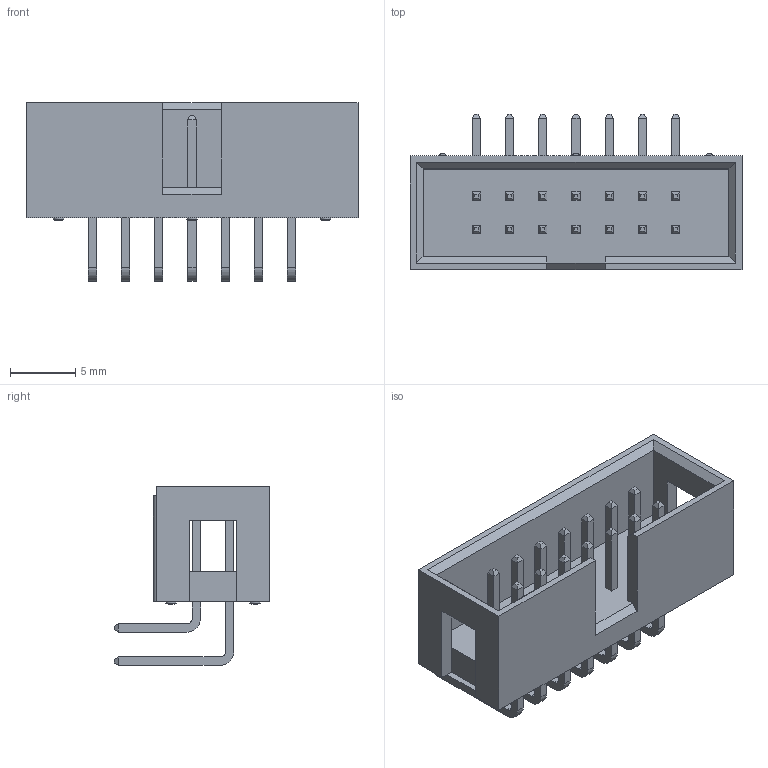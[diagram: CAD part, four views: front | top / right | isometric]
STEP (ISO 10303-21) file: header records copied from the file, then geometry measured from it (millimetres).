
FILE_DESCRIPTION (( 'STEP AP203' ), '1' );
FILE_NAME ('HC-JN254-2-7-W-8.8-XX (潠籟2.54 邧齬 俔渀-HCTL).STEP', '2025-08-14T07:30:19', ( '' ), ( '' ), 'SwSTEP 2.0', 'SolidWorks 2025', '' );
FILE_SCHEMA (( 'CONFIG_CONTROL_DESIGN' ));
Length unit declared in the file: millimetre
Products named in the file (1): HC-JN254-2-7-W-8.8-XX (简牛2.54 双排 弯针-HCTL)
Bounding box: 25.38 x 11.9 x 13.66 mm (x, y, z)
Volume: 933.6 mm3; surface area: 1934.5 mm2
Topology: 1 solids, 1 shells, 428 faces, 1008 edges, 604 vertices
Faces by surface type: plane 373, cylinder 43, bspline 12
Entity records: 12079 total; most frequent: CARTESIAN_POINT 2281, ORIENTED_EDGE 2016, DIRECTION 1920, EDGE_CURVE 1008, VECTOR 890, LINE 890, VERTEX_POINT 604, AXIS2_PLACEMENT_3D 515
